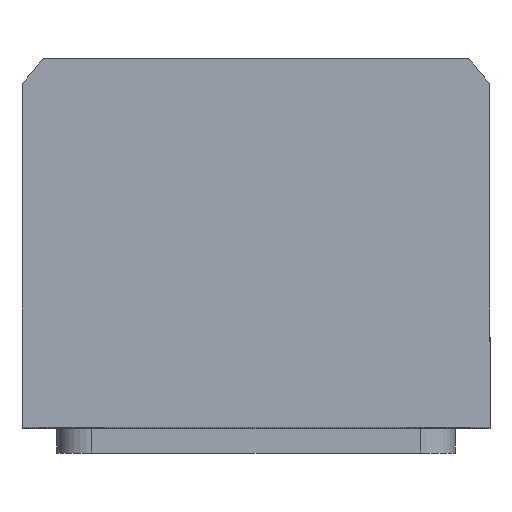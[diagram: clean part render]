
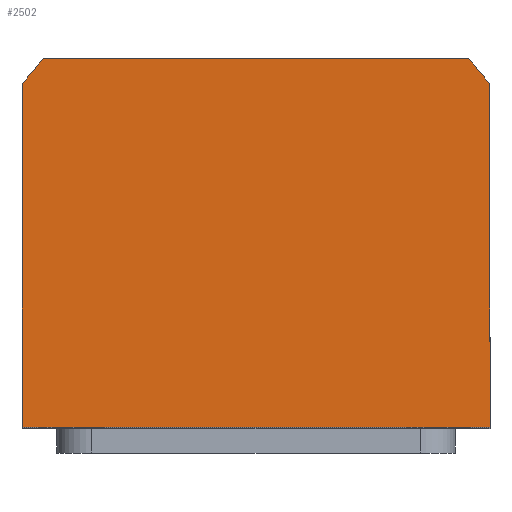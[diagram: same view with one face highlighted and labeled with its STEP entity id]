
A CAD part, top view. The second image highlights one B-rep face of the part: STEP entity #2502.
In plain terms, the highlighted planar face has unit normal (0, 0, 1).
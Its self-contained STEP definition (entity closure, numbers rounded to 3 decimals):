
#416 = CARTESIAN_POINT ( 'NONE',  ( -42.688, 40., 75. ) ) ;
#476 = VECTOR ( 'NONE', #10409, 1000. ) ;
#550 = VERTEX_POINT ( 'NONE', #9586 ) ;
#559 = ORIENTED_EDGE ( 'NONE', *, *, #9233, .T. ) ;
#919 = CARTESIAN_POINT ( 'NONE',  ( 47., 34.832, 75. ) ) ;
#1105 = VERTEX_POINT ( 'NONE', #416 ) ;
#1445 = ORIENTED_EDGE ( 'NONE', *, *, #6975, .T. ) ;
#1652 = LINE ( 'NONE', #4193, #4643 ) ;
#1717 = DIRECTION ( 'NONE',  ( 0., 0., 1. ) ) ;
#2141 = EDGE_CURVE ( 'NONE', #1105, #4915, #10014, .T. ) ;
#2338 = VECTOR ( 'NONE', #6742, 1000. ) ;
#2466 = CARTESIAN_POINT ( 'NONE',  ( -47., -34., 75. ) ) ;
#2502 = ADVANCED_FACE ( 'NONE', ( #9475 ), #6065, .T. ) ;
#2513 = VERTEX_POINT ( 'NONE', #2466 ) ;
#2575 = DIRECTION ( 'NONE',  ( 0., 0., 1. ) ) ;
#2630 = CARTESIAN_POINT ( 'NONE',  ( -47., 34.832, 75. ) ) ;
#3306 = ORIENTED_EDGE ( 'NONE', *, *, #2141, .T. ) ;
#3350 = DIRECTION ( 'NONE',  ( 1., 0., 0. ) ) ;
#3468 = CARTESIAN_POINT ( 'NONE',  ( 47., 34.832, 75. ) ) ;
#4193 = CARTESIAN_POINT ( 'NONE',  ( -42.688, 40., 75. ) ) ;
#4259 = AXIS2_PLACEMENT_3D ( 'NONE', #7841, #2575, #3350 ) ;
#4566 = EDGE_CURVE ( 'NONE', #2513, #6119, #11079, .T. ) ;
#4620 = ORIENTED_EDGE ( 'NONE', *, *, #6944, .T. ) ;
#4643 = VECTOR ( 'NONE', #9693, 1000. ) ;
#4915 = VERTEX_POINT ( 'NONE', #2630 ) ;
#5294 = DIRECTION ( 'NONE',  ( 1., 0., 0. ) ) ;
#5509 = EDGE_CURVE ( 'NONE', #550, #1105, #1652, .T. ) ;
#5532 = AXIS2_PLACEMENT_3D ( 'NONE', #9813, #9220, #6455 ) ;
#5547 = VERTEX_POINT ( 'NONE', #919 ) ;
#5854 = CARTESIAN_POINT ( 'NONE',  ( 47., -34., 75. ) ) ;
#5916 = LINE ( 'NONE', #6111, #8151 ) ;
#6065 = PLANE ( 'NONE',  #4259 ) ;
#6111 = CARTESIAN_POINT ( 'NONE',  ( -47., -34., 75. ) ) ;
#6119 = VERTEX_POINT ( 'NONE', #8587 ) ;
#6455 = DIRECTION ( 'NONE',  ( 1., 0., 0. ) ) ;
#6742 = DIRECTION ( 'NONE',  ( 1., 0., 0. ) ) ;
#6944 = EDGE_CURVE ( 'NONE', #6119, #5547, #7569, .T. ) ;
#6975 = EDGE_CURVE ( 'NONE', #4915, #2513, #5916, .T. ) ;
#7317 = EDGE_LOOP ( 'NONE', ( #8558, #4620, #559, #9963, #3306, #1445 ) ) ;
#7569 = LINE ( 'NONE', #3468, #476 ) ;
#7841 = CARTESIAN_POINT ( 'NONE',  ( 0., 0., 75. ) ) ;
#8084 = AXIS2_PLACEMENT_3D ( 'NONE', #10583, #1717, #5294 ) ;
#8151 = VECTOR ( 'NONE', #10333, 1000. ) ;
#8558 = ORIENTED_EDGE ( 'NONE', *, *, #4566, .T. ) ;
#8587 = CARTESIAN_POINT ( 'NONE',  ( 47., -34., 75. ) ) ;
#9220 = DIRECTION ( 'NONE',  ( 0., 0., 1. ) ) ;
#9233 = EDGE_CURVE ( 'NONE', #5547, #550, #10302, .T. ) ;
#9475 = FACE_OUTER_BOUND ( 'NONE', #7317, .T. ) ;
#9586 = CARTESIAN_POINT ( 'NONE',  ( 42.688, 40., 75. ) ) ;
#9693 = DIRECTION ( 'NONE',  ( -1., 0., 0. ) ) ;
#9813 = CARTESIAN_POINT ( 'NONE',  ( 0., 0., 75. ) ) ;
#9963 = ORIENTED_EDGE ( 'NONE', *, *, #5509, .T. ) ;
#10014 = CIRCLE ( 'NONE', #5532, 58.5 ) ;
#10302 = CIRCLE ( 'NONE', #8084, 58.5 ) ;
#10333 = DIRECTION ( 'NONE',  ( 0., -1., 0. ) ) ;
#10409 = DIRECTION ( 'NONE',  ( 0., 1., 0. ) ) ;
#10583 = CARTESIAN_POINT ( 'NONE',  ( 0., 0., 75. ) ) ;
#11079 = LINE ( 'NONE', #5854, #2338 ) ;
